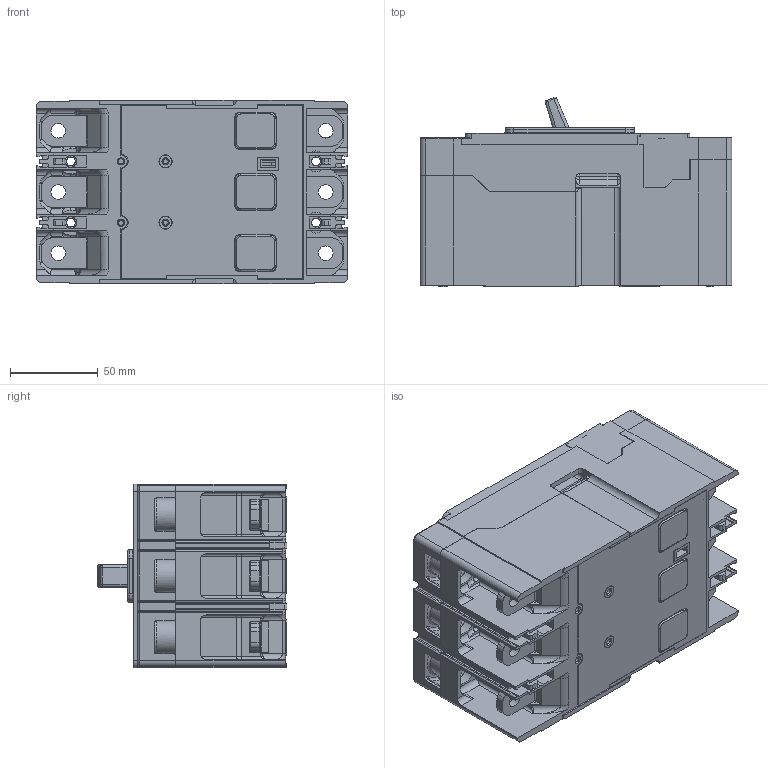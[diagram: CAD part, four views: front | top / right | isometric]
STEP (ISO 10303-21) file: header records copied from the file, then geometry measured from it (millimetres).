
FILE_DESCRIPTION((''),'2;1');
FILE_NAME('JG_3P_SW0001','2005-11-21T',('E0027246'),(''),'PRO/ENGINEER BY PARAMETRIC TECHNOLOGY CORPORATION, 2003010','PRO/ENGINEER BY PARAMETRIC TECHNOLOGY CORPORATION, 2003010','');
FILE_SCHEMA(('CONFIG_CONTROL_DESIGN'));
Products named in the file (1): JG_3P_SW0001
Bounding box: 177.8 x 108.16 x 104.79 mm (x, y, z)
Volume: 635102 mm3; surface area: 325429.5 mm2
Topology: 2 solids, 2 shells, 4815 faces, 13004 edges, 8135 vertices
Faces by surface type: plane 2282, cylinder 1791, torus 295, bspline 168, sphere 161, cone 118
Entity records: 164194 total; most frequent: CARTESIAN_POINT 43062, ORIENTED_EDGE 25996, DIRECTION 24841, EDGE_CURVE 12998, AXIS2_PLACEMENT_3D 8326, VECTOR 8189, LINE 8189, VERTEX_POINT 8136
